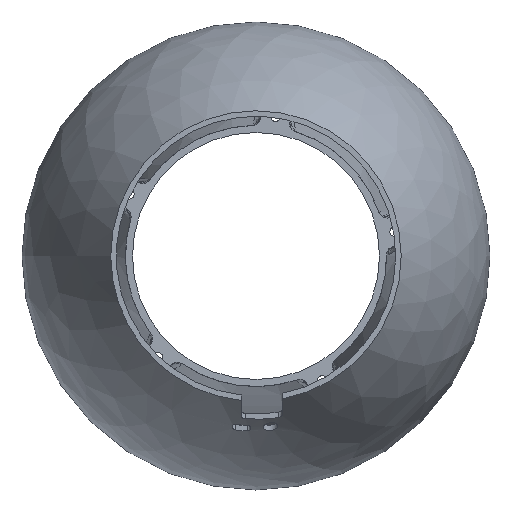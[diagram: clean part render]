
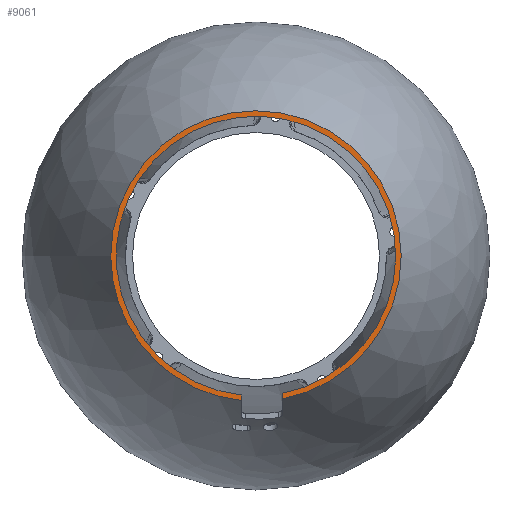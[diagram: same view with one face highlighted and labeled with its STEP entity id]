
A CAD part, front view. The second image highlights one B-rep face of the part: STEP entity #9061.
In plain terms, the highlighted planar face has unit normal (0, -1, 0).
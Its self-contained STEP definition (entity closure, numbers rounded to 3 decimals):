
#1355=FACE_OUTER_BOUND('',#1931,.T.);
#1931=EDGE_LOOP('',(#8292,#8293,#8294,#8295,#8296));
#2318=CIRCLE('',#9862,50.);
#2319=CIRCLE('',#9863,50.);
#2332=CIRCLE('',#9893,48.113);
#2843=LINE('',#21274,#3396);
#2855=LINE('',#21648,#3408);
#3396=VECTOR('',#11757,10.);
#3408=VECTOR('',#11793,10.);
#4157=VERTEX_POINT('',#21269);
#4158=VERTEX_POINT('',#21273);
#4183=VERTEX_POINT('',#21642);
#4184=VERTEX_POINT('',#21647);
#4276=VERTEX_POINT('',#23565);
#5432=EDGE_CURVE('',#4158,#4157,#2843,.T.);
#5470=EDGE_CURVE('',#4184,#4183,#2855,.T.);
#5603=EDGE_CURVE('',#4158,#4276,#2318,.T.);
#5605=EDGE_CURVE('',#4276,#4183,#2319,.T.);
#5624=EDGE_CURVE('',#4157,#4184,#2332,.T.);
#8292=ORIENTED_EDGE('',*,*,#5432,.T.);
#8293=ORIENTED_EDGE('',*,*,#5624,.T.);
#8294=ORIENTED_EDGE('',*,*,#5470,.T.);
#8295=ORIENTED_EDGE('',*,*,#5605,.F.);
#8296=ORIENTED_EDGE('',*,*,#5603,.F.);
#8513=PLANE('',#9894);
#9061=ADVANCED_FACE('',(#1355),#8513,.T.);
#9862=AXIS2_PLACEMENT_3D('',#23566,#11952,#11953);
#9863=AXIS2_PLACEMENT_3D('',#23572,#11954,#11955);
#9893=AXIS2_PLACEMENT_3D('',#23620,#12020,#12021);
#9894=AXIS2_PLACEMENT_3D('',#23621,#12022,#12023);
#11757=DIRECTION('',(0.,0.,1.));
#11793=DIRECTION('',(0.,0.,-1.));
#11952=DIRECTION('center_axis',(0.,1.,0.));
#11953=DIRECTION('ref_axis',(1.,0.,0.));
#11954=DIRECTION('center_axis',(0.,1.,0.));
#11955=DIRECTION('ref_axis',(1.,0.,0.));
#12020=DIRECTION('center_axis',(0.,1.,0.));
#12021=DIRECTION('ref_axis',(1.,0.,0.));
#12022=DIRECTION('center_axis',(0.,-1.,0.));
#12023=DIRECTION('ref_axis',(0.,0.,-1.));
#21269=CARTESIAN_POINT('',(-5.,-35.,-47.853));
#21273=CARTESIAN_POINT('',(-5.,-35.,-49.749));
#21274=CARTESIAN_POINT('',(-5.,-35.,0.));
#21642=CARTESIAN_POINT('',(9.,-35.,-49.183));
#21647=CARTESIAN_POINT('',(9.,-35.,-47.264));
#21648=CARTESIAN_POINT('',(9.,-35.,0.));
#23565=CARTESIAN_POINT('',(-50.,-35.,0.));
#23566=CARTESIAN_POINT('Origin',(0.,-35.,0.));
#23572=CARTESIAN_POINT('Origin',(0.,-35.,0.));
#23620=CARTESIAN_POINT('Origin',(0.,-35.,0.));
#23621=CARTESIAN_POINT('Origin',(-50.,-35.,0.));
